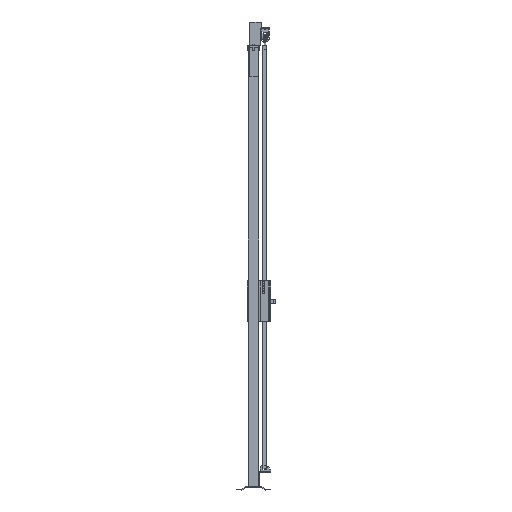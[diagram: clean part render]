
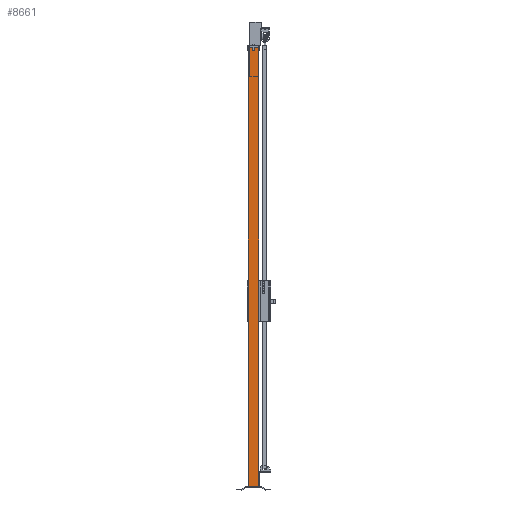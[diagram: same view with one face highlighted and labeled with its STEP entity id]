
A CAD part, left-side view. The second image highlights one B-rep face of the part: STEP entity #8661.
In plain terms, the highlighted planar face has unit normal (-1, 0, 0).
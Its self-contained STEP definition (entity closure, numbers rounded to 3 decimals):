
#816=FACE_OUTER_BOUND('',#1253,.T.);
#1253=EDGE_LOOP('',(#6447,#6448,#6449,#6450));
#1939=LINE('',#12800,#3075);
#1943=LINE('',#12809,#3079);
#1945=LINE('',#12812,#3081);
#1947=LINE('',#12815,#3083);
#3075=VECTOR('',#10213,1.);
#3079=VECTOR('',#10219,1.);
#3081=VECTOR('',#10223,1.);
#3083=VECTOR('',#10227,1.);
#4045=VERTEX_POINT('',#12797);
#4046=VERTEX_POINT('',#12799);
#4049=VERTEX_POINT('',#12806);
#4050=VERTEX_POINT('',#12808);
#4971=EDGE_CURVE('',#4045,#4046,#1939,.T.);
#4975=EDGE_CURVE('',#4049,#4050,#1943,.T.);
#4977=EDGE_CURVE('',#4046,#4049,#1945,.T.);
#4979=EDGE_CURVE('',#4045,#4050,#1947,.T.);
#6447=ORIENTED_EDGE('',*,*,#4979,.T.);
#6448=ORIENTED_EDGE('',*,*,#4975,.F.);
#6449=ORIENTED_EDGE('',*,*,#4977,.F.);
#6450=ORIENTED_EDGE('',*,*,#4971,.F.);
#8269=PLANE('',#9148);
#8661=ADVANCED_FACE('',(#816),#8269,.F.);
#9148=AXIS2_PLACEMENT_3D('',#12814,#10225,#10226);
#10213=DIRECTION('',(0.,-1.,0.));
#10219=DIRECTION('',(0.,1.,0.));
#10223=DIRECTION('',(0.,0.,-1.));
#10225=DIRECTION('center_axis',(1.,0.,0.));
#10226=DIRECTION('ref_axis',(0.,0.,-1.));
#10227=DIRECTION('',(0.,0.,-1.));
#12797=CARTESIAN_POINT('',(-30.,30.,2520.));
#12799=CARTESIAN_POINT('',(-30.,-30.,2520.));
#12800=CARTESIAN_POINT('',(-30.,0.,2520.));
#12806=CARTESIAN_POINT('',(-30.,-30.,20.));
#12808=CARTESIAN_POINT('',(-30.,30.,20.));
#12809=CARTESIAN_POINT('',(-30.,0.,20.));
#12812=CARTESIAN_POINT('',(-30.,-30.,1270.));
#12814=CARTESIAN_POINT('Origin',(-30.,0.,
1270.));
#12815=CARTESIAN_POINT('',(-30.,30.,1270.));
